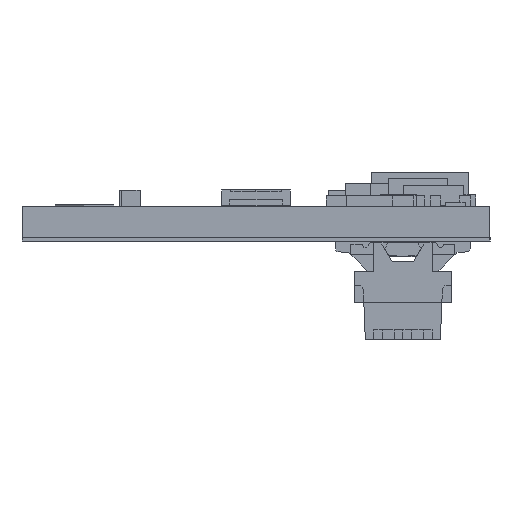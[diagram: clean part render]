
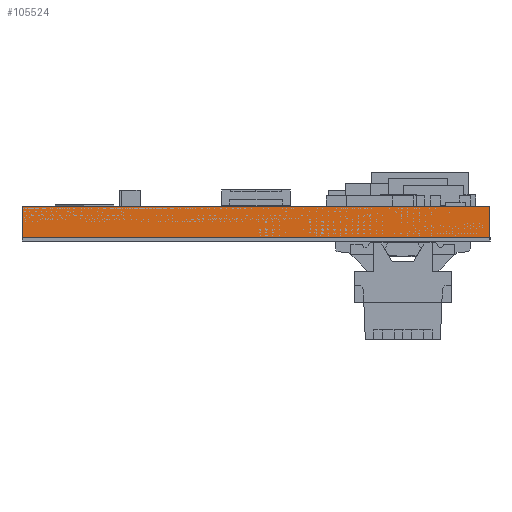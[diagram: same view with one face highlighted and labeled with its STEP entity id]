
A CAD part, left-side view. The second image highlights one B-rep face of the part: STEP entity #105524.
In plain terms, the highlighted planar face has unit normal (-1, 0, 0).
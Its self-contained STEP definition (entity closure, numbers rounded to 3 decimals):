
#7015 = EDGE_CURVE ( 'NONE', #107495, #43614, #87216, .T. ) ;
#8066 = DIRECTION ( 'NONE',  ( 0., -1., 0. ) ) ;
#9131 = AXIS2_PLACEMENT_3D ( 'NONE', #22043, #92205, #39711 ) ;
#13052 = EDGE_CURVE ( 'NONE', #86034, #43614, #42660, .T. ) ;
#15990 = CARTESIAN_POINT ( 'NONE',  ( 0., 24., 1.575 ) ) ;
#22043 = CARTESIAN_POINT ( 'NONE',  ( 0., 24., 1.575 ) ) ;
#22664 = VERTEX_POINT ( 'NONE', #15990 ) ;
#29222 = CARTESIAN_POINT ( 'NONE',  ( 0., 0., 1.575 ) ) ;
#29568 = EDGE_CURVE ( 'NONE', #22664, #107495, #102256, .T. ) ;
#38050 = DIRECTION ( 'NONE',  ( 0., 0., -1. ) ) ;
#39711 = DIRECTION ( 'NONE',  ( 0., 0., -1. ) ) ;
#42660 = LINE ( 'NONE', #29222, #86577 ) ;
#42801 = ORIENTED_EDGE ( 'NONE', *, *, #7015, .T. ) ;
#43614 = VERTEX_POINT ( 'NONE', #82932 ) ;
#48391 = ORIENTED_EDGE ( 'NONE', *, *, #104109, .F. ) ;
#60601 = CARTESIAN_POINT ( 'NONE',  ( 0., 24., 0. ) ) ;
#62970 = VECTOR ( 'NONE', #92934, 1000. ) ;
#68984 = ORIENTED_EDGE ( 'NONE', *, *, #13052, .F. ) ;
#72739 = CARTESIAN_POINT ( 'NONE',  ( 0., 24., 1.575 ) ) ;
#74138 = CARTESIAN_POINT ( 'NONE',  ( 0., 24., 0. ) ) ;
#74905 = CARTESIAN_POINT ( 'NONE',  ( 0., 24., 1.575 ) ) ;
#78989 = VECTOR ( 'NONE', #81603, 1000. ) ;
#81603 = DIRECTION ( 'NONE',  ( 0., 0., -1. ) ) ;
#82932 = CARTESIAN_POINT ( 'NONE',  ( 0., 0., 0. ) ) ;
#85053 = ORIENTED_EDGE ( 'NONE', *, *, #29568, .T. ) ;
#85098 = EDGE_LOOP ( 'NONE', ( #42801, #68984, #48391, #85053 ) ) ;
#86034 = VERTEX_POINT ( 'NONE', #99776 ) ;
#86577 = VECTOR ( 'NONE', #38050, 1000. ) ;
#87216 = LINE ( 'NONE', #60601, #107716 ) ;
#92205 = DIRECTION ( 'NONE',  ( 1., 0., 0. ) ) ;
#92934 = DIRECTION ( 'NONE',  ( 0., -1., 0. ) ) ;
#99776 = CARTESIAN_POINT ( 'NONE',  ( 0., 0., 1.575 ) ) ;
#100635 = PLANE ( 'NONE',  #9131 ) ;
#102256 = LINE ( 'NONE', #72739, #78989 ) ;
#104109 = EDGE_CURVE ( 'NONE', #22664, #86034, #109531, .T. ) ;
#105524 = ADVANCED_FACE ( 'NONE', ( #109191 ), #100635, .F. ) ;
#107495 = VERTEX_POINT ( 'NONE', #74138 ) ;
#107716 = VECTOR ( 'NONE', #8066, 1000. ) ;
#109191 = FACE_OUTER_BOUND ( 'NONE', #85098, .T. ) ;
#109531 = LINE ( 'NONE', #74905, #62970 ) ;
